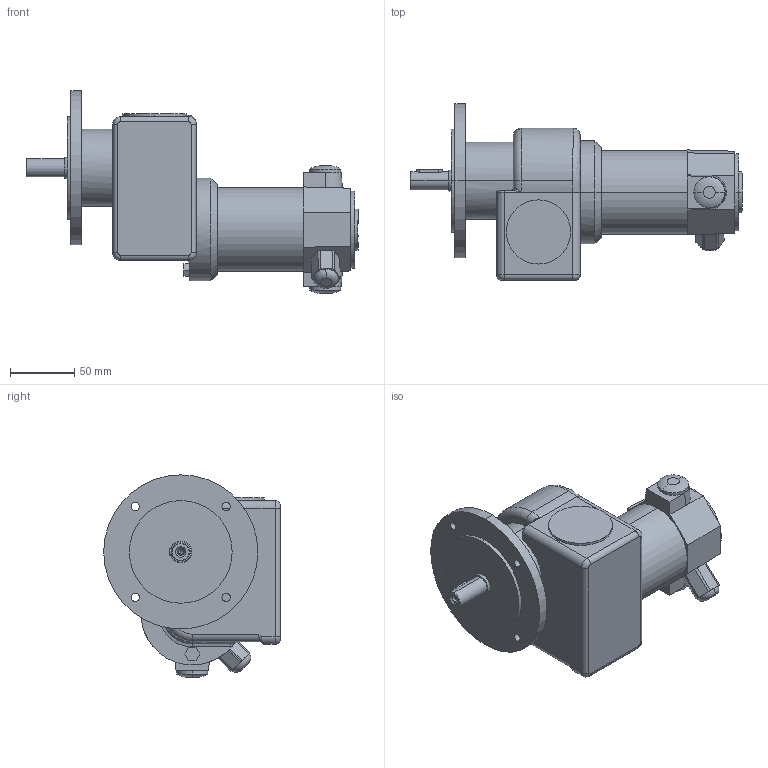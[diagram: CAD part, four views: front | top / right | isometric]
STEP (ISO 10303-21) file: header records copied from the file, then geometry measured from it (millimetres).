
FILE_DESCRIPTION(('OneSpaceDesigner STEP Export'),'2;1');
FILE_NAME('EPG02_GF24.stp','2008-07-16T15:32:42',(''),(''),'OneSpace Designer STEP processor (Jan. 2003) for AP214(CD)(Solid Model)','OneSpace Designer 12.01D 09-Jul-2004 (C) CoCreate Software GmbH','');
FILE_SCHEMA(('AUTOMOTIVE_DESIGN_CC2 {1 2 10303 214 -1 1 5 1}'));
Length unit declared in the file: millimetre
Products named in the file (2): EPG02_GF24
Assembly tree (1 placements, depth 2):
  EPG02_GF24
    EPG02_GF24
Bounding box: 258.5 x 137.5 x 157.5 mm (x, y, z)
Volume: 1389465 mm3; surface area: 109662.9 mm2
Topology: 1 solids, 1 shells, 169 faces, 413 edges, 261 vertices
Faces by surface type: plane 67, cylinder 64, torus 14, bspline 13, cone 10, extrusion 1
Entity records: 9565 total; most frequent: CARTESIAN_POINT 5873, ORIENTED_EDGE 820, DIRECTION 653, EDGE_CURVE 410, VERTEX_POINT 261, AXIS2_PLACEMENT_3D 225, VECTOR 203, LINE 202
